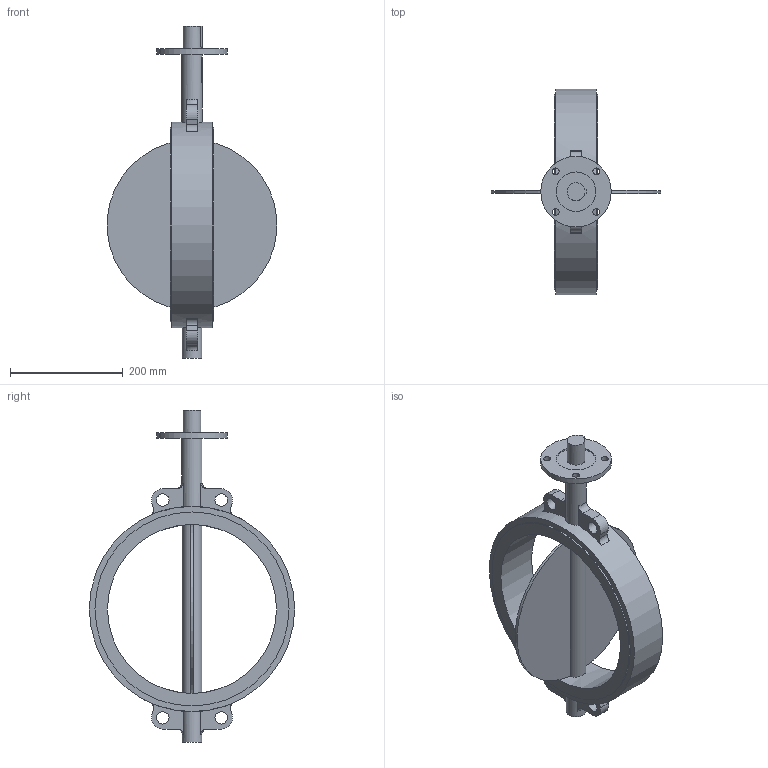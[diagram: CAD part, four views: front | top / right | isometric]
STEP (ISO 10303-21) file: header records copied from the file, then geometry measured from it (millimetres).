
FILE_DESCRIPTION(('STEP AP203'), '1');
FILE_NAME('青蜮铕 017W.Y_DN300_PN10', '', ('UNSPECIFIED'), ('UNSPECIFIED'), 'ASCON STEP Converter 1.6', 'ASCON Math Kernel', '');
FILE_SCHEMA(('CONFIG_CONTROL_DESIGN'));
Length unit declared in the file: millimetre
Bounding box: 300.4 x 364.2 x 589 mm (x, y, z)
Volume: 3553057 mm3; surface area: 452358.5 mm2
Topology: 1 solids, 1 shells, 89 faces, 220 edges, 146 vertices
Faces by surface type: plane 48, cylinder 37, torus 4
Full cylindrical faces by diameter (mm): 12 x4, 22 x4, 31.7 x1, 35 x2, 37 x1, 70 x1, 125 x1, 300 x1, 344.2 x2, 364.2 x1
Entity records: 4569 total; most frequent: CARTESIAN_POINT 1677, DIRECTION 452, ORIENTED_EDGE 404, EDGE_CURVE 202, AXIS2_PLACEMENT_3D 180, VERTEX_POINT 146, EDGE_LOOP 140, FACE_BOUND 107
